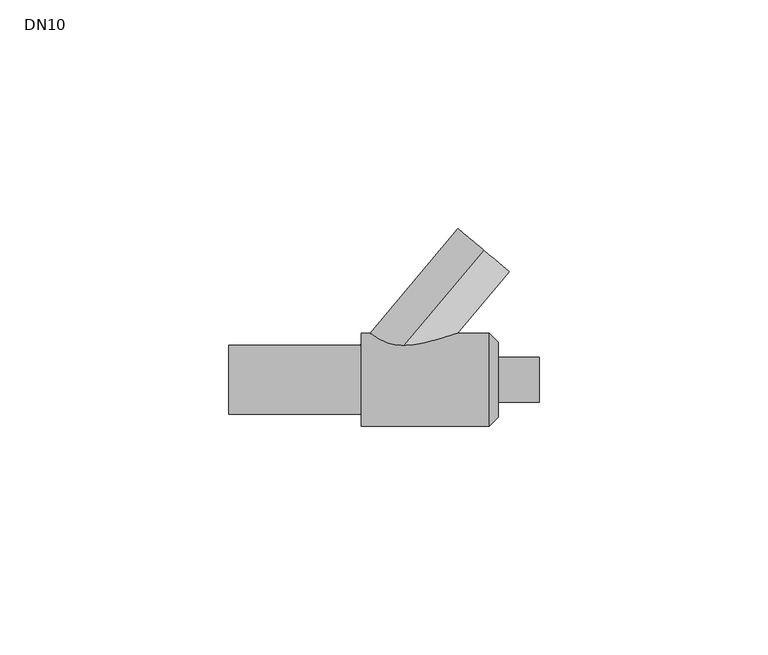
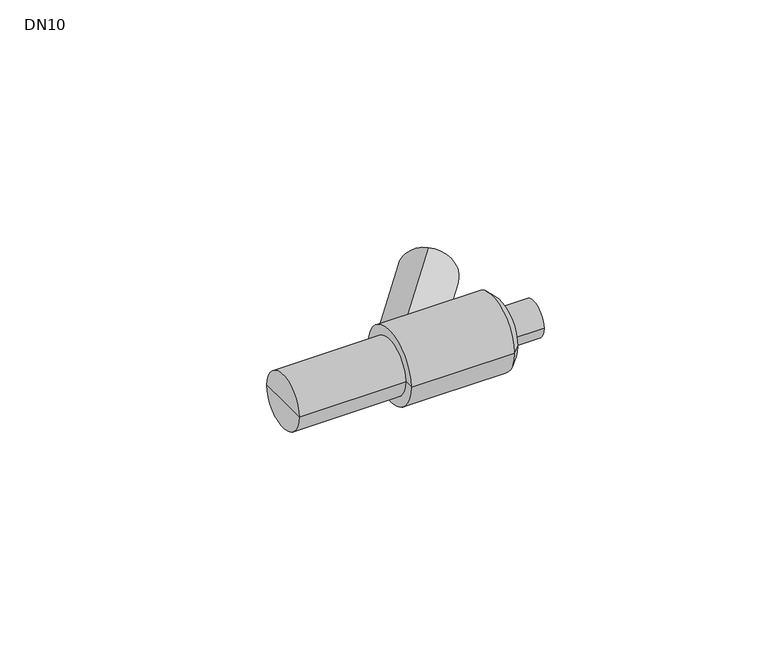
"""IFC4 building model written with IfcOpenShell, lengths in millimetres: valve geometry, Wavin_PipeAccessory_Hep2oBrassDraincock : DN10."""

from ifc_helpers import new_model, si_unit, point, frame, frame_2d, origin, place, context, project, spatial, polyline, circle_curve, trimmed, segment, composite_curve, outline, extrude, source, transform, mapped, element, save
from ifc_brep_helpers import plane_surface, cylinder_surface, revolved_surface, advanced_brep


def dn10_97a4a5d7(model_context):
    return source(origin(), model_context, "Body", "SolidModel", [
        advanced_brep(
        [(-32.0, 0.0, 0.0), (-32.0, 7.6, 0.0), (-32.0, -7.6, 0.0), (36.0, -4.9, 0.0), (36.0, 4.9, 0.0), (36.0, 0.0, 0.0), (27.0, -4.9, 0.0), (27.0, 4.9, 0.0), (27.0, -8.1844821, 0.0), (27.0, 8.1844821, 0.0), (24.9844821, -10.2, 0.0), (24.9844821, 10.2, 0.0), (-3.0, -10.2, 0.0), (-3.0, 10.2, 0.0), (-3.0, -7.6, 0.0), (-3.0, 7.6, 0.0)],
        [
            (0, 1),
            (1, 2, circle_curve(frame((-32.0, 0.0, 0.0), z_axis=(-1.0, 0.0, 0.0), x_axis=(0.0, 1.0, 0.0)), 7.6)),
            (2, 0),
            (2, 1, circle_curve(frame((-32.0, 0.0, 0.0), z_axis=(-1.0, 0.0, 0.0), x_axis=(0.0, 1.0, 0.0)), 7.6)),
            (3, 4, circle_curve(frame((36.0, 0.0, 0.0), z_axis=(1.0, 0.0, 0.0), x_axis=(0.0, 1.0, 0.0)), 4.9)),
            (4, 5),
            (5, 3),
            (4, 3, circle_curve(frame((36.0, 0.0, 0.0), z_axis=(1.0, 0.0, 0.0), x_axis=(0.0, 1.0, 0.0)), 4.9)),
            (6, 7, circle_curve(frame((27.0, 0.0, 0.0), z_axis=(1.0, 0.0, 0.0), x_axis=(0.0, 1.0, 0.0)), 4.9)),
            (7, 4),
            (3, 6),
            (7, 6, circle_curve(frame((27.0, 0.0, 0.0), z_axis=(1.0, 0.0, 0.0), x_axis=(0.0, 1.0, 0.0)), 4.9)),
            (8, 9, circle_curve(frame((27.0, 0.0, 0.0), z_axis=(1.0, 0.0, 0.0), x_axis=(0.0, 1.0, 0.0)), 8.1844821)),
            (9, 7),
            (6, 8),
            (9, 8, circle_curve(frame((27.0, 0.0, 0.0), z_axis=(1.0, 0.0, 0.0), x_axis=(0.0, 1.0, 0.0)), 8.1844821)),
            (10, 11, circle_curve(frame((24.9844821, 0.0, 0.0), z_axis=(1.0, 0.0, 0.0), x_axis=(0.0, 1.0, 0.0)), 10.2)),
            (11, 9),
            (8, 10),
            (11, 10, circle_curve(frame((24.9844821, 0.0, 0.0), z_axis=(1.0, 0.0, 0.0), x_axis=(0.0, 1.0, 0.0)), 10.2)),
            (12, 13, circle_curve(frame((-3.0, 0.0, 0.0), z_axis=(1.0, 0.0, 0.0), x_axis=(0.0, 1.0, 0.0)), 10.2)),
            (13, 11),
            (10, 12),
            (13, 12, circle_curve(frame((-3.0, 0.0, 0.0), z_axis=(1.0, 0.0, 0.0), x_axis=(0.0, 1.0, 0.0)), 10.2)),
            (14, 15, circle_curve(frame((-3.0, 0.0, 0.0), z_axis=(1.0, 0.0, 0.0), x_axis=(0.0, 1.0, 0.0)), 7.6)),
            (15, 13),
            (12, 14),
            (15, 14, circle_curve(frame((-3.0, 0.0, 0.0), z_axis=(1.0, 0.0, 0.0), x_axis=(0.0, 1.0, 0.0)), 7.6)),
            (1, 15),
            (14, 2),
        ],
        [
            plane_surface(frame((-32.0, 0.0, 0.0), z_axis=(-1.0, 0.0, 0.0), x_axis=(0.0, 1.0, 0.0))),
            plane_surface(frame((36.0, 0.0, 0.0), z_axis=(1.0, 0.0, 0.0), x_axis=(0.0, 1.0, 0.0))),
            cylinder_surface(frame((-92.0, 0.0, 0.0), z_axis=(-1.0, 0.0, 0.0), x_axis=(0.0, 1.0, 0.0)), 4.9),
            plane_surface(frame((27.0, 0.0, 0.0), z_axis=(1.0, 0.0, 0.0), x_axis=(0.0, 1.0, 0.0))),
            revolved_surface(polyline([(27.0, 8.1844821, 0.0), (24.9844821, 10.2, 0.0)]), (-92.0, 0.0, 0.0), (-1.0, 0.0, 0.0)),
            cylinder_surface(frame((-92.0, 0.0, 0.0), z_axis=(-1.0, 0.0, 0.0), x_axis=(0.0, 1.0, 0.0)), 10.2),
            plane_surface(frame((-3.0, 0.0, 0.0), z_axis=(-1.0, 0.0, 0.0), x_axis=(0.0, 1.0, 0.0))),
            cylinder_surface(frame((-92.0, 0.0, 0.0), z_axis=(-1.0, 0.0, 0.0), x_axis=(0.0, 1.0, 0.0)), 7.6),
        ],
        [
            (0, [[1, 2, 3]]),
            (0, [[-3, 4, -1]]),
            (1, [[5, 6, 7]]),
            (1, [[8, -7, -6]]),
            (2, [[9, 10, -5, 11]]),
            (2, [[12, -11, -8, -10]]),
            (3, [[13, 14, -9, 15]]),
            (3, [[16, -15, -12, -14]]),
            (4, [[17, 18, -13, 19]]),
            (4, [[20, -19, -16, -18]]),
            (5, [[21, 22, -17, 23]]),
            (5, [[24, -23, -20, -22]]),
            (6, [[25, 26, -21, 27]]),
            (6, [[28, -27, -24, -26]]),
            (7, [[-2, 29, -25, 30]]),
            (7, [[-4, -30, -28, -29]]),
        ],
    ),
        extrude(outline(composite_curve([segment(trimmed(circle_curve(frame_2d((0.0, -7.35)), 7.35), [point((0.0, -14.7))], [point((0.0, 0.0))], False, "CARTESIAN"), True, "CONTINUOUS"), segment(trimmed(circle_curve(frame_2d((0.0, -7.35)), 7.35), [point((0.0, 0.0))], [point((0.0, -14.7))], False, "CARTESIAN"), True, "CONTINUOUS")], self_intersect=False)), frame((0.0, 0.0, 7.35), z_axis=(0.6427876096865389, 0.7660444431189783, 0.0), x_axis=(-0.7660444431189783, 0.6427876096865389, 0.0)), (0.0, 0.0, 1.0), 37.0),
    ])


if __name__ == "__main__":
    model = new_model("IFC4")
    model_context = context("Model", 3, world=origin())
    ifc_project = project(units=[si_unit("LENGTHUNIT", "METRE", prefix="MILLI")], contexts=[model_context])
    site = spatial("IfcSite", under=ifc_project)
    building = spatial("IfcBuilding", under=site)
    placement = place(None, origin())
    dn10_shape = dn10_97a4a5d7(model_context)
    element("IfcValve", 1, ObjectType="Wavin_PipeAccessory_Hep2oBrassDraincock : DN10", at=placement, inside=building, context=model_context, shape_type="MappedRepresentation", body=[
        mapped(dn10_shape, transform((0.0, 0.0, 0.0), x_axis=(1.0, 0.0, 0.0), y_axis=(0.0, 1.0, 0.0), z_axis=(0.0, 0.0, 1.0))),
    ])
    save(model, "model.ifc")
